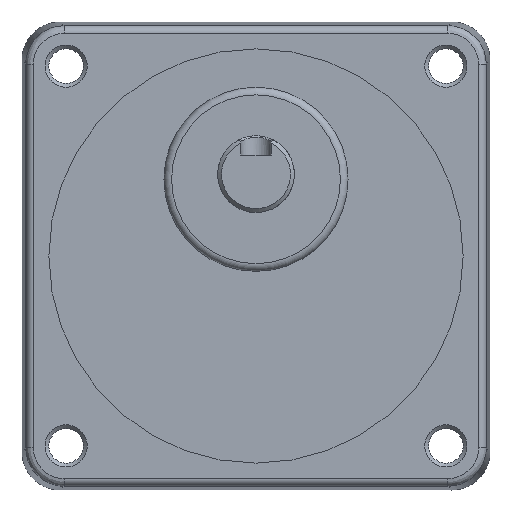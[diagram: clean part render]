
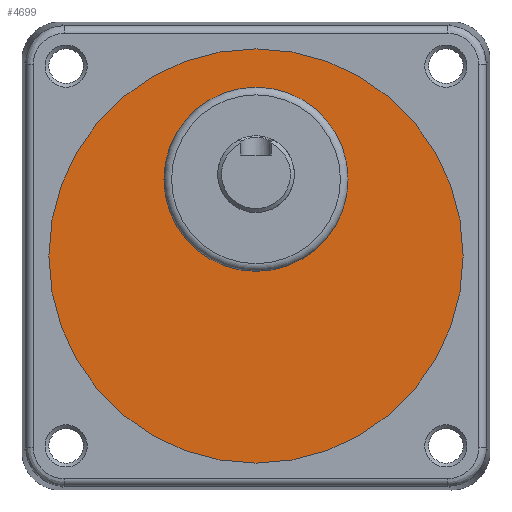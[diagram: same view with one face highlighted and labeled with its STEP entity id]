
A CAD part, front view. The second image highlights one B-rep face of the part: STEP entity #4699.
In plain terms, the highlighted planar face has unit normal (0, -1, 0).
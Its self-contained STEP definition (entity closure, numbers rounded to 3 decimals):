
#4108=CARTESIAN_POINT('',(12.,-36.5,10.));
#4109=VERTEX_POINT('',#4108);
#4110=CARTESIAN_POINT('',(0.,-36.5,10.0));
#4111=DIRECTION('',(0.0,1.0,0.0));
#4112=DIRECTION('',(-1.0,0.0,0.0));
#4113=AXIS2_PLACEMENT_3D('',#4110,#4111,#4112);
#4114=CIRCLE('',#4113,12.);
#4115=EDGE_CURVE('',#4109,#4109,#4114,.T.);
#4673=CARTESIAN_POINT('',(27.0,-36.5,0.));
#4674=VERTEX_POINT('',#4673);
#4675=CARTESIAN_POINT('',(0.0,-36.5,0.0));
#4676=DIRECTION('',(0.0,-1.0,0.0));
#4677=DIRECTION('',(-1.0,0.0,0.0));
#4678=AXIS2_PLACEMENT_3D('',#4675,#4676,#4677);
#4679=CIRCLE('',#4678,27.0);
#4680=EDGE_CURVE('',#4674,#4674,#4679,.T.);
#4688=CARTESIAN_POINT('',(0.0,-36.5,0.0));
#4689=DIRECTION('',(0.0,1.0,0.0));
#4690=DIRECTION('',(0.0,0.0,1.0));
#4691=AXIS2_PLACEMENT_3D('',#4688,#4689,#4690);
#4692=PLANE('',#4691);
#4693=ORIENTED_EDGE('',*,*,#4680,.T.);
#4694=EDGE_LOOP('',(#4693));
#4695=FACE_OUTER_BOUND('',#4694,.T.);
#4696=ORIENTED_EDGE('',*,*,#4115,.T.);
#4697=EDGE_LOOP('',(#4696));
#4698=FACE_BOUND('',#4697,.T.);
#4699=ADVANCED_FACE('',(#4695,#4698),#4692,.F.);
